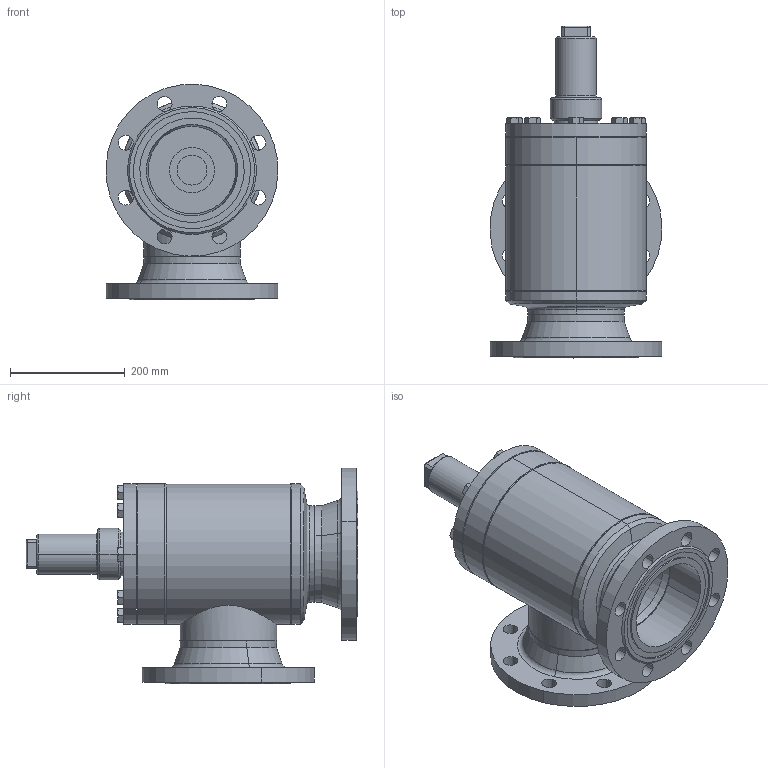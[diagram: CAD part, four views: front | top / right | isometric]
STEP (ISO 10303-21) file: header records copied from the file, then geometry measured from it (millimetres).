
FILE_DESCRIPTION (( 'STEP AP214' ), '1' );
FILE_NAME ('AVR26420D21-DN150_DIN-FL-N_PS40.STEP', '2006-04-27T13:50:38', ( 'Herr Grams' ), ( 'AWP GmbH' ), 'SwSTEP 2.0', 'SolidWorks 2002296', '' );
FILE_SCHEMA (( 'AUTOMOTIVE_DESIGN' ));
Length unit declared in the file: millimetre
Products named in the file (15): AVR26420D21-DN150_DIN-FL-N_PS40; Gehäuse-kpl16420-DN150_DIN_PS40_Standard; Gehäuse16300-DN150_Standard; Rohrstutzen-A16300-DN150_R1_Standard; Kopfstück16300-DN150_Standard; Boden16300-DN150_Standard; Flansch-DIN-Nut_PS40_DIN-Flansch-DN150_PS40-Nut; bead-DN150-1_Standard; bead-DN150-2_Standard; bead-DN150-3_Standard; bead-DN150-4_Standard; AVR26300E21_Deck+Schr-DN150_Standard; Deckel26300E21-DN150_Standard; Sechskantschraube-DIN933_M16x 45; Kappe16402_DN125-150_Standard
Assembly tree (22 placements, depth 3):
  AVR26420D21-DN150_DIN-FL-N_PS40
    Gehäuse-kpl16420-DN150_DIN_PS40_Standard
      Gehäuse16300-DN150_Standard
      bead-DN150-2_Standard
      Rohrstutzen-A16300-DN150_R1_Standard
      bead-DN150-1_Standard
      bead-DN150-4_Standard
      bead-DN150-3_Standard
      Flansch-DIN-Nut_PS40_DIN-Flansch-DN150_PS40-Nut  x2
      Kopfstück16300-DN150_Standard
      Boden16300-DN150_Standard
    Kappe16402_DN125-150_Standard
    AVR26300E21_Deck+Schr-DN150_Standard
      Sechskantschraube-DIN933_M16x 45  x8
      Deckel26300E21-DN150_Standard
Bounding box: 299.71 x 578.5 x 375.86 mm (x, y, z)
Volume: 8794871.6 mm3; surface area: 1345761 mm2
Topology: 20 solids, 20 shells, 432 faces, 960 edges, 578 vertices
Faces by surface type: cylinder 143, cone 134, plane 123, bspline 16, torus 16
Entity records: 9735 total; most frequent: CARTESIAN_POINT 3852, DIRECTION 1118, ORIENTED_EDGE 984, EDGE_CURVE 492, AXIS2_PLACEMENT_3D 488, VERTEX_POINT 304, EDGE_LOOP 278, CIRCLE 258
